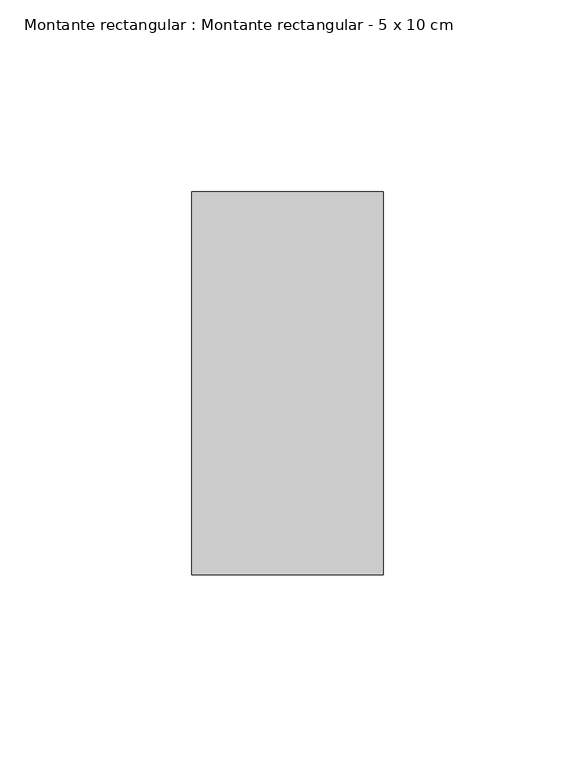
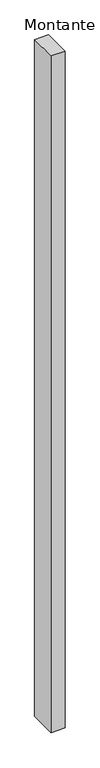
"""IFC4 building model written with IfcOpenShell, lengths in millimetres: member geometry, Montante rectangular : Montante rectangular - 5 x 10 cm."""

from ifc_helpers import new_model, si_unit, frame, origin, place, context, project, spatial, polyline, outline, extrude, source, transform, mapped, element, save


def montante_rectangular_montante_rectangular_5_x_10_cm_e7f6fddc(model_context):
    return source(origin(), model_context, "Body", "SweptSolid", [
        extrude(outline(polyline([(25.0, 50.0), (25.0, -50.0), (-25.0, -50.0), (-25.0, 50.0), (25.0, 50.0)])), frame((0.0, 0.0, -2550.0), z_axis=(0.0, 0.0, 1.0), x_axis=(1.0, 0.0, 0.0)), (0.0, 0.0, 1.0), 2550.0),
    ])


if __name__ == "__main__":
    model = new_model("IFC4")
    model_context = context("Model", 3, world=origin())
    ifc_project = project(units=[si_unit("LENGTHUNIT", "METRE", prefix="MILLI")], contexts=[model_context])
    site = spatial("IfcSite", under=ifc_project)
    building = spatial("IfcBuilding", under=site)
    placement = place(None, origin())
    montante_rectangular_montante_rectangular_5_x_10_cm_shape = montante_rectangular_montante_rectangular_5_x_10_cm_e7f6fddc(model_context)
    element("IfcMember", 1, ObjectType="Montante rectangular : Montante rectangular - 5 x 10 cm", at=placement, inside=building, context=model_context, shape_type="MappedRepresentation", body=[
        mapped(montante_rectangular_montante_rectangular_5_x_10_cm_shape, transform((0.0, 0.0, 0.0), x_axis=(1.0, 0.0, 0.0), y_axis=(0.0, 1.0, 0.0), z_axis=(0.0, 0.0, 1.0))),
    ])
    save(model, "model.ifc")
